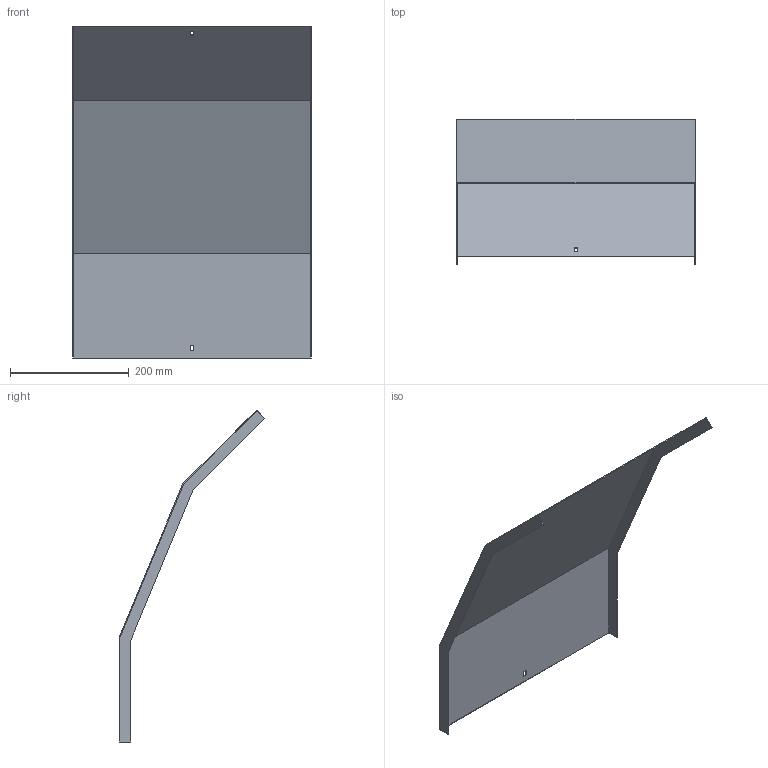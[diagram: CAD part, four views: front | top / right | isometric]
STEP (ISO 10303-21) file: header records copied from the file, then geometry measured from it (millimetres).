
FILE_DESCRIPTION (( 'STEP AP214' ), '1' );
FILE_NAME ('A2_34N3J400.step', '2025-02-21T10:35:25', ( '' ), ( '' ), 'SwSTEP 2.0', 'SolidWorks 2023', '' );
FILE_SCHEMA (( 'AUTOMOTIVE_DESIGN' ));
Length unit declared in the file: millimetre
Products named in the file (1): A2_34N3J400
Bounding box: 403 x 246.09 x 559.98 mm (x, y, z)
Volume: 416711.6 mm3; surface area: 558881.3 mm2
Topology: 1 solids, 1 shells, 26 faces, 72 edges, 48 vertices
Faces by surface type: plane 26
Entity records: 847 total; most frequent: CARTESIAN_POINT 147, ORIENTED_EDGE 144, DIRECTION 126, VECTOR 72, EDGE_CURVE 72, LINE 72, VERTEX_POINT 48, EDGE_LOOP 30
